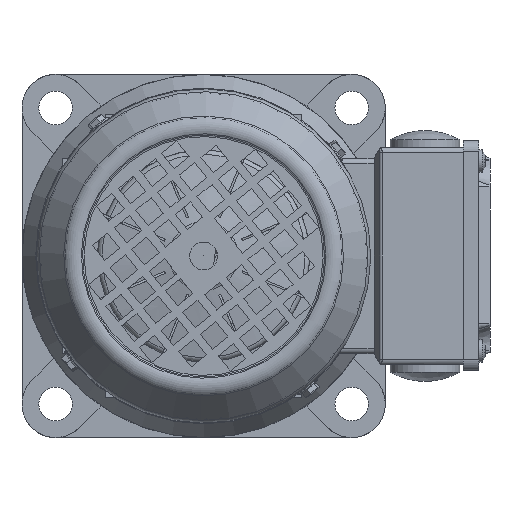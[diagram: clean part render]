
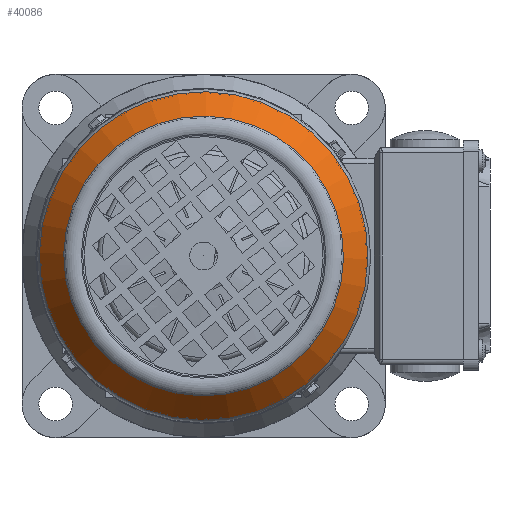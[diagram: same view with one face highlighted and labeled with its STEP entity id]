
A CAD part, left-side view. The second image highlights one B-rep face of the part: STEP entity #40086.
In plain terms, the highlighted conical face has half-angle 36.822 degrees and reference radius 58.803 mm.
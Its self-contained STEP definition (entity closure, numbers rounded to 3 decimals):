
#988=CONICAL_SURFACE('',#42545,58.803,0.643);
#2736=FACE_OUTER_BOUND('',#4939,.T.);
#4939=EDGE_LOOP('',(#27698,#27699,#27700,#27701));
#8876=LINE('',#56945,#11779);
#11779=VECTOR('',#46818,58.803);
#14656=CIRCLE('',#42544,58.803);
#14657=CIRCLE('',#42546,50.069);
#16386=VERTEX_POINT('',#56940);
#16387=VERTEX_POINT('',#56944);
#20823=EDGE_CURVE('',#16386,#16386,#14656,.T.);
#20824=EDGE_CURVE('',#16386,#16387,#8876,.T.);
#20825=EDGE_CURVE('',#16387,#16387,#14657,.T.);
#27698=ORIENTED_EDGE('',*,*,#20823,.F.);
#27699=ORIENTED_EDGE('',*,*,#20824,.T.);
#27700=ORIENTED_EDGE('',*,*,#20825,.T.);
#27701=ORIENTED_EDGE('',*,*,#20824,.F.);
#40086=ADVANCED_FACE('',(#2736),#988,.T.);
#42544=AXIS2_PLACEMENT_3D('',#56942,#46814,#46815);
#42545=AXIS2_PLACEMENT_3D('',#56943,#46816,#46817);
#42546=AXIS2_PLACEMENT_3D('',#56946,#46819,#46820);
#46814=DIRECTION('center_axis',(1.,0.,0.));
#46815=DIRECTION('ref_axis',(0.,-0.777,0.63));
#46816=DIRECTION('center_axis',(1.,0.,0.));
#46817=DIRECTION('ref_axis',(0.,-0.777,0.63));
#46818=DIRECTION('',(-0.801,-0.466,0.377));
#46819=DIRECTION('center_axis',(1.,0.,0.));
#46820=DIRECTION('ref_axis',(0.,-0.777,0.63));
#56940=CARTESIAN_POINT('',(-229.342,45.673,-37.036));
#56942=CARTESIAN_POINT('Origin',(-229.342,0.,
0.));
#56943=CARTESIAN_POINT('Origin',(-229.342,0.,
0.));
#56944=CARTESIAN_POINT('',(-241.007,38.89,-31.536));
#56945=CARTESIAN_POINT('',(-229.342,45.673,-37.036));
#56946=CARTESIAN_POINT('Origin',(-241.007,0.,
0.));
